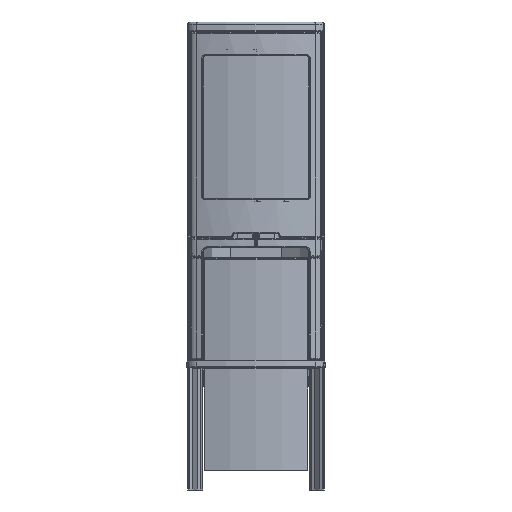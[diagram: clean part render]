
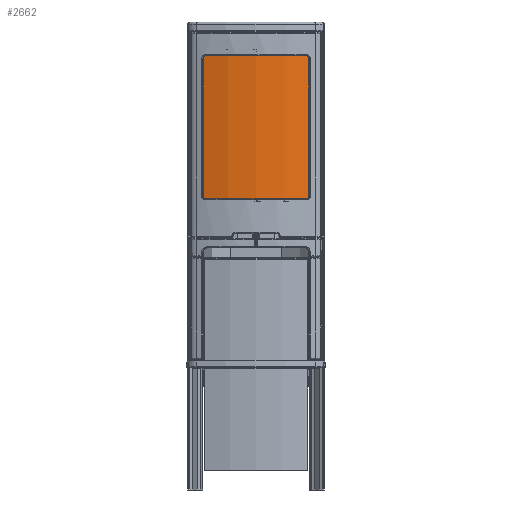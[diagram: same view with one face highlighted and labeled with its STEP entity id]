
A CAD part, front view. The second image highlights one B-rep face of the part: STEP entity #2662.
In plain terms, the highlighted cylindrical face has radius 585.5 mm (diameter 1171 mm), a partial arc.
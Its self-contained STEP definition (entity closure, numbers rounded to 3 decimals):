
#2662 = ADVANCED_FACE( '', ( #6073 ), #6074, .T. );
#6073 = FACE_OUTER_BOUND( '', #17429, .T. );
#6074 = CYLINDRICAL_SURFACE( '', #17430, 585.5 );
#17429 = EDGE_LOOP( '', ( #35258, #35259, #35260, #35261 ) );
#17430 = AXIS2_PLACEMENT_3D( '', #35262, #35263, #35264 );
#35258 = ORIENTED_EDGE( '', *, *, #44042, .F. );
#35259 = ORIENTED_EDGE( '', *, *, #44043, .F. );
#35260 = ORIENTED_EDGE( '', *, *, #44044, .T. );
#35261 = ORIENTED_EDGE( '', *, *, #44045, .T. );
#35262 = CARTESIAN_POINT( '', ( 0., 124.295, 551.5 ) );
#35263 = DIRECTION( '', ( 0., 0., -1. ) );
#35264 = DIRECTION( '', ( 1., 0., 0. ) );
#44042 = EDGE_CURVE( '', #50281, #50282, #50283, .T. );
#44043 = EDGE_CURVE( '', #50284, #50281, #50285, .T. );
#44044 = EDGE_CURVE( '', #50284, #50286, #50287, .T. );
#44045 = EDGE_CURVE( '', #50286, #50282, #50288, .T. );
#50281 = VERTEX_POINT( '', #73958 );
#50282 = VERTEX_POINT( '', #73959 );
#50283 = CIRCLE( '', #73960, 585.5 );
#50284 = VERTEX_POINT( '', #73961 );
#50285 = LINE( '', #73962, #73963 );
#50286 = VERTEX_POINT( '', #73964 );
#50287 = CIRCLE( '', #73965, 585.5 );
#50288 = LINE( '', #73966, #73967 );
#73958 = CARTESIAN_POINT( '', ( -185.475, -431.051, 1058.5 ) );
#73959 = CARTESIAN_POINT( '', ( 185.475, -431.051, 1058.5 ) );
#73960 = AXIS2_PLACEMENT_3D( '', #85031, #85032, #85033 );
#73961 = CARTESIAN_POINT( '', ( -185.475, -431.051, 551.5 ) );
#73962 = CARTESIAN_POINT( '', ( -185.475, -431.051, 551.5 ) );
#73963 = VECTOR( '', #85034, 1000. );
#73964 = CARTESIAN_POINT( '', ( 185.475, -431.051, 551.5 ) );
#73965 = AXIS2_PLACEMENT_3D( '', #85035, #85036, #85037 );
#73966 = CARTESIAN_POINT( '', ( 185.475, -431.051, 551.5 ) );
#73967 = VECTOR( '', #85038, 1000. );
#85031 = CARTESIAN_POINT( '', ( 0., 124.295, 1058.5 ) );
#85032 = DIRECTION( '', ( 0., 0., 1. ) );
#85033 = DIRECTION( '', ( 0.317, 0.948, 0. ) );
#85034 = DIRECTION( '', ( 0., 0., 1. ) );
#85035 = CARTESIAN_POINT( '', ( 0., 124.295, 551.5 ) );
#85036 = DIRECTION( '', ( 0., 0., 1. ) );
#85037 = DIRECTION( '', ( 0.317, 0.948, 0. ) );
#85038 = DIRECTION( '', ( 0., 0., 1. ) );
